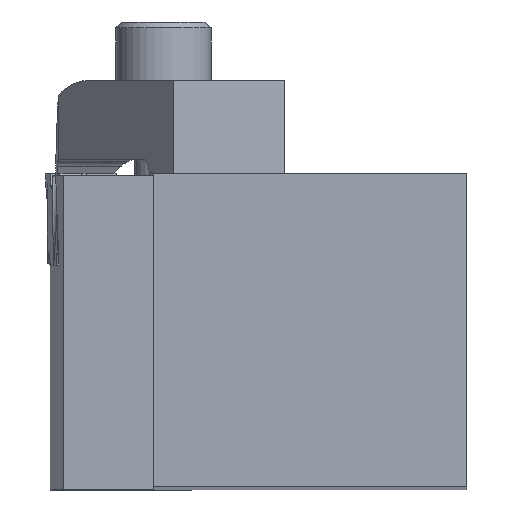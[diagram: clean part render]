
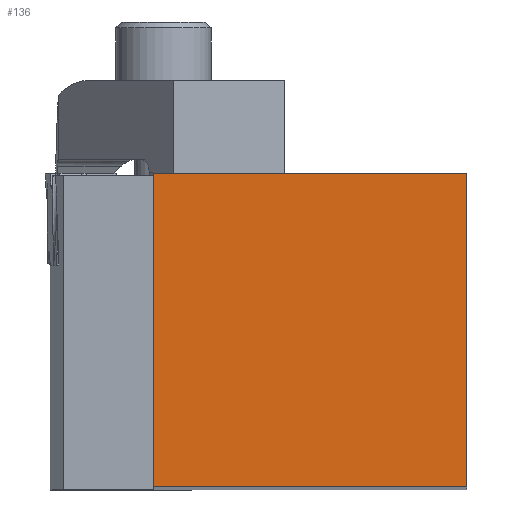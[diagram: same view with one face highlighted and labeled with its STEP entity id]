
A CAD part, top view. The second image highlights one B-rep face of the part: STEP entity #136.
In plain terms, the highlighted planar face has unit normal (0, 0, 1).
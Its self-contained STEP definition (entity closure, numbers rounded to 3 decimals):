
#136=ADVANCED_FACE('',(#277),#217,.F.);
#217=PLANE('',#1618);
#277=FACE_OUTER_BOUND('',#351,.T.);
#351=EDGE_LOOP('',(#467,#468,#469,#470));
#467=ORIENTED_EDGE('',*,*,#1005,.T.);
#468=ORIENTED_EDGE('',*,*,#997,.F.);
#469=ORIENTED_EDGE('',*,*,#1002,.F.);
#470=ORIENTED_EDGE('',*,*,#1022,.T.);
#855=VERTEX_POINT('',#2156);
#856=VERTEX_POINT('',#2158);
#859=VERTEX_POINT('',#2166);
#862=VERTEX_POINT('',#2174);
#997=EDGE_CURVE('',#855,#856,#1287,.T.);
#1002=EDGE_CURVE('',#859,#855,#1292,.T.);
#1005=EDGE_CURVE('',#862,#856,#1295,.T.);
#1022=EDGE_CURVE('',#859,#862,#1312,.T.);
#1287=LINE('',#2157,#1449);
#1292=LINE('',#2167,#1454);
#1295=LINE('',#2173,#1457);
#1312=LINE('',#2205,#1474);
#1449=VECTOR('',#1748,1.);
#1454=VECTOR('',#1755,1.);
#1457=VECTOR('',#1760,1.);
#1474=VECTOR('',#1785,1.);
#1618=AXIS2_PLACEMENT_3D('',#2206,#1786,#1787);
#1748=DIRECTION('',(0.,-1.,0.));
#1755=DIRECTION('',(1.,0.,0.));
#1760=DIRECTION('',(1.,0.,0.));
#1785=DIRECTION('',(0.,-1.,0.));
#1786=DIRECTION('',(0.,0.,-1.));
#1787=DIRECTION('',(-1.,0.,0.));
#2156=CARTESIAN_POINT('',(0.,18.86,0.));
#2157=CARTESIAN_POINT('',(0.,18.86,0.));
#2158=CARTESIAN_POINT('',(0.,0.,0.));
#2166=CARTESIAN_POINT('',(-18.86,18.86,0.));
#2167=CARTESIAN_POINT('',(-18.86,18.86,0.));
#2173=CARTESIAN_POINT('',(-18.86,0.,0.));
#2174=CARTESIAN_POINT('',(-18.86,0.,0.));
#2205=CARTESIAN_POINT('',(-18.86,18.86,0.));
#2206=CARTESIAN_POINT('',(-18.86,18.86,0.));
